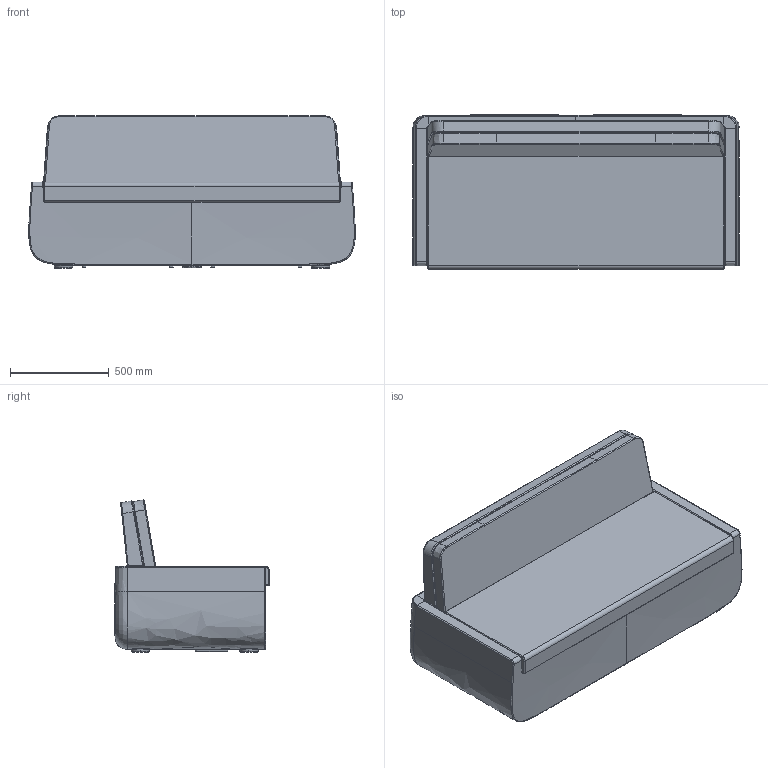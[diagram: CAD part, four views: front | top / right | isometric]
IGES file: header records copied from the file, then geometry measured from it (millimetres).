
Start section: START RECORD GO HERE.
Global section: file name: Divano-Bold.igs; native system: DASSAULT SYSTEMES CATIA Version 5-6 Release 2014 - www.3ds.com; preprocessor: V5-6R2014_5.24.5.0.02-24-2015.20.00; author: samatori; organization: DOMAIN; date: 20160420.150419; units: millimetre
Bounding box: 1650.17 x 780.53 x 769.44 mm (x, y, z)
Surface area: 9675055.1 mm2 (no closed solid volume)
Topology: 0 solids, 0 shells, 5149 faces, 30327 edges, 30316 vertices
Faces by surface type: plane 4677, revolution 290, bspline 180, extrusion 2
